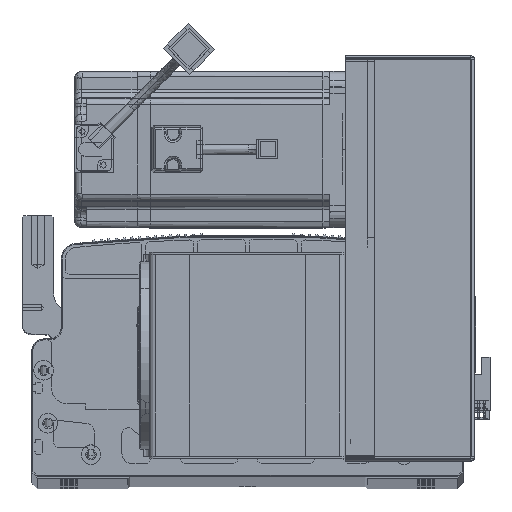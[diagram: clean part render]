
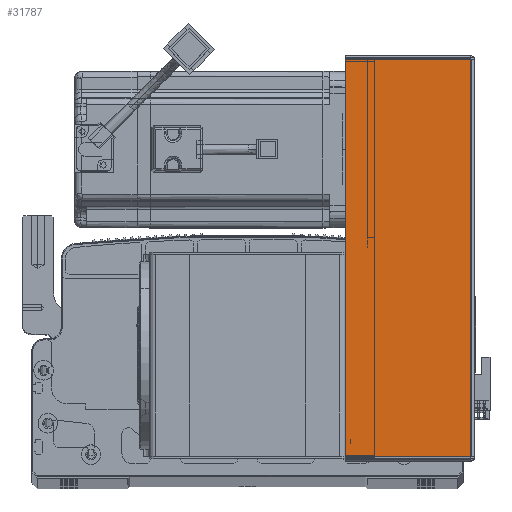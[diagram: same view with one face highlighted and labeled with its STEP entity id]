
A CAD part, top view. The second image highlights one B-rep face of the part: STEP entity #31787.
In plain terms, the highlighted planar face has unit normal (0, 0, 1) as drawn and (0, -1, 0) by its records, which use the part's own axes.
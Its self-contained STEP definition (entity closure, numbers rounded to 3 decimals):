
#4681 = DIRECTION ( 'NONE',  ( 0., 0., 1. ) ) ;
#12558 = ORIENTED_EDGE ( 'NONE', *, *, #52154, .T. ) ;
#15340 = CARTESIAN_POINT ( 'NONE',  ( 64.5, -1.5, -203.293 ) ) ;
#15517 = DIRECTION ( 'NONE',  ( -1., 0., 0. ) ) ;
#15551 = CARTESIAN_POINT ( 'NONE',  ( 0.737, -1.5, -203.293 ) ) ;
#21979 = VECTOR ( 'NONE', #79058, 1000. ) ;
#23865 = CARTESIAN_POINT ( 'NONE',  ( 64.5, -1.5, -0.707 ) ) ;
#23971 = LINE ( 'NONE', #88595, #58809 ) ;
#25217 = VERTEX_POINT ( 'NONE', #15340 ) ;
#27374 = EDGE_CURVE ( 'NONE', #77660, #93472, #93813, .T. ) ;
#28939 = DIRECTION ( 'NONE',  ( 1., 0., 0. ) ) ;
#31787 = ADVANCED_FACE ( 'NONE', ( #40340 ), #35318, .F. ) ;
#33589 = EDGE_CURVE ( 'NONE', #95528, #77660, #54458, .T. ) ;
#34503 = DIRECTION ( 'NONE',  ( 1., 0., 0. ) ) ;
#35318 = PLANE ( 'NONE',  #93394 ) ;
#38446 = VECTOR ( 'NONE', #28939, 1000. ) ;
#39847 = EDGE_LOOP ( 'NONE', ( #97386, #42402, #12558, #43353 ) ) ;
#40340 = FACE_OUTER_BOUND ( 'NONE', #39847, .T. ) ;
#42402 = ORIENTED_EDGE ( 'NONE', *, *, #73523, .T. ) ;
#43035 = LINE ( 'NONE', #96959, #74302 ) ;
#43353 = ORIENTED_EDGE ( 'NONE', *, *, #27374, .F. ) ;
#52154 = EDGE_CURVE ( 'NONE', #25217, #93472, #43035, .T. ) ;
#53806 = CARTESIAN_POINT ( 'NONE',  ( 0., -1.5, 0. ) ) ;
#54458 = LINE ( 'NONE', #94165, #21979 ) ;
#58809 = VECTOR ( 'NONE', #34503, 1000. ) ;
#73523 = EDGE_CURVE ( 'NONE', #95528, #25217, #23971, .T. ) ;
#74302 = VECTOR ( 'NONE', #4681, 1000. ) ;
#76287 = CARTESIAN_POINT ( 'NONE',  ( 0., -1.5, -0.707 ) ) ;
#77309 = CARTESIAN_POINT ( 'NONE',  ( 0.737, -1.5, -0.707 ) ) ;
#77660 = VERTEX_POINT ( 'NONE', #77309 ) ;
#79058 = DIRECTION ( 'NONE',  ( 0., 0., 1. ) ) ;
#83332 = DIRECTION ( 'NONE',  ( 0., 1., 0. ) ) ;
#88595 = CARTESIAN_POINT ( 'NONE',  ( 0., -1.5, -203.293 ) ) ;
#93394 = AXIS2_PLACEMENT_3D ( 'NONE', #53806, #83332, #15517 ) ;
#93472 = VERTEX_POINT ( 'NONE', #23865 ) ;
#93813 = LINE ( 'NONE', #76287, #38446 ) ;
#94165 = CARTESIAN_POINT ( 'NONE',  ( 0.737, -1.5, 0. ) ) ;
#95528 = VERTEX_POINT ( 'NONE', #15551 ) ;
#96959 = CARTESIAN_POINT ( 'NONE',  ( 64.5, -1.5, 0. ) ) ;
#97386 = ORIENTED_EDGE ( 'NONE', *, *, #33589, .F. ) ;
